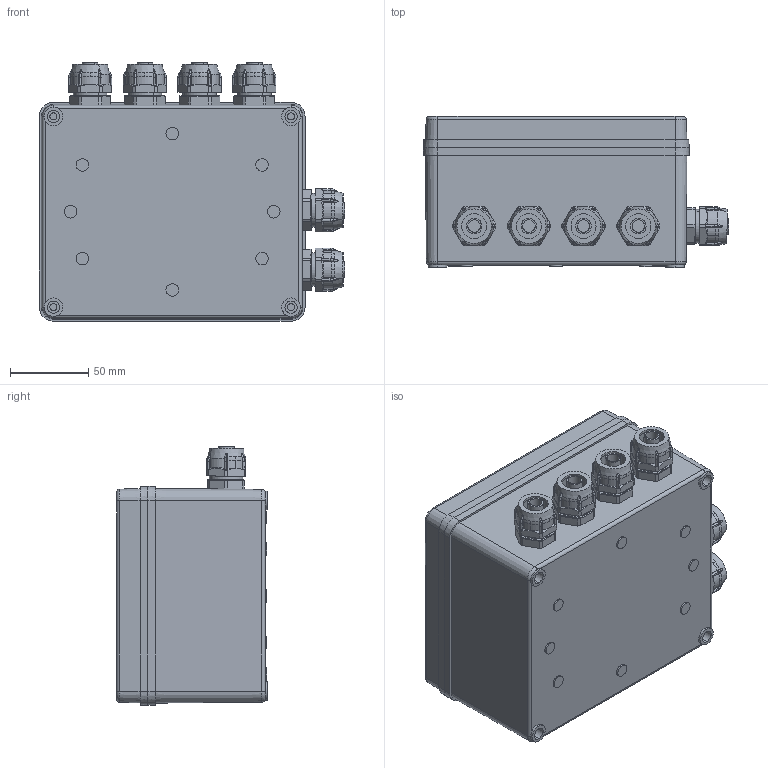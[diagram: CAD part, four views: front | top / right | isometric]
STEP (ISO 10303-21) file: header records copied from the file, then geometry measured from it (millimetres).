
FILE_DESCRIPTION((''),'1');
FILE_NAME('ETLF_housing_cable-gland.step','2022-03-28T15:42:32',(''),(''),'','','');
FILE_SCHEMA(('AUTOMOTIVE_DESIGN { 1 0 10303 214 1 1 1 1 }'));
Products named in the file (5): ETLF housing_cable-gland; ETLF cover 01; ETLF part 02; ETLF screw 01; ETLF part 03
Assembly tree (12 placements, depth 2):
  ETLF housing_cable-gland
    ETLF cover 01
    ETLF part 02
    ETLF screw 01  x4
    ETLF part 03  x6
Bounding box: 195.31 x 96.5 x 165.31 mm (x, y, z)
Volume: 381620.3 mm3; surface area: 252136.4 mm2
Topology: 12 solids, 18 shells, 1311 faces, 3259 edges, 2072 vertices
Faces by surface type: cylinder 532, plane 511, cone 132, torus 116, bspline 20
Entity records: 19152 total; most frequent: CARTESIAN_POINT 4684, DIRECTION 3097, ORIENTED_EDGE 2878, EDGE_CURVE 1451, AXIS2_PLACEMENT_3D 1151, VERTEX_POINT 944, LINE 795, VECTOR 795
